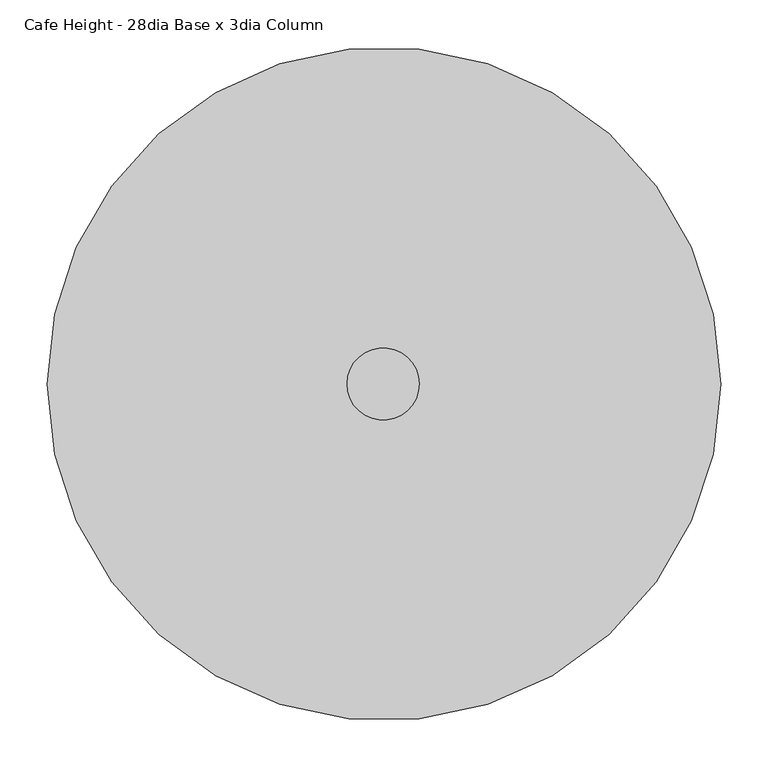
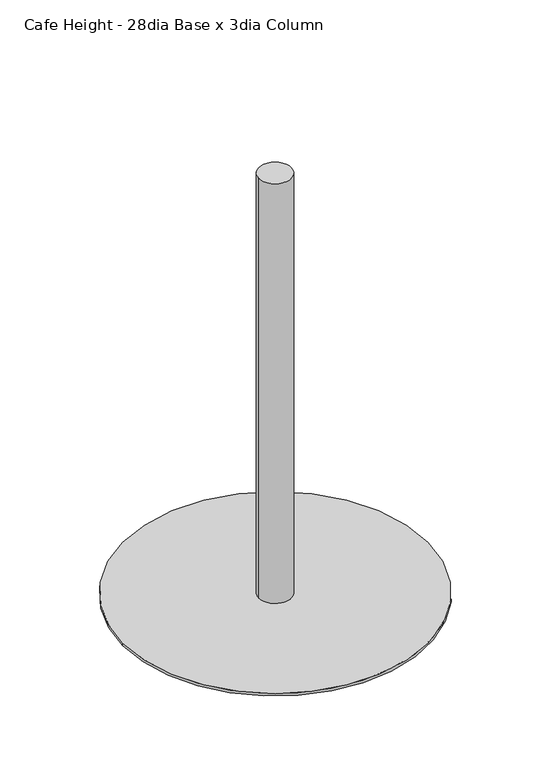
"""IFC4 building model written with IfcOpenShell, lengths in millimetres: furniture geometry, Steelcase - Groupwork - Table - Base : Cafe Height - 28dia Base x 3dia Column."""

from ifc_helpers import new_model, si_unit, point, frame, frame_2d, origin, origin_with_axes, origin_2d, place, context, project, spatial, circle_curve, trimmed, segment, composite_curve, outline, extrude, source, transform, mapped, element, save


def cafe_height_28dia_base_x_3dia_column_d5198972(model_context):
    return source(origin(), model_context, "Body", "SweptSolid", [
        extrude(outline(composite_curve([segment(trimmed(circle_curve(frame_2d((-0.79375, 0.0)), 38.1), [point((-38.89375, 0.0))], [point((37.30625, 0.0))], False, "CARTESIAN"), True, "CONTINUOUS"), segment(trimmed(circle_curve(frame_2d((-0.79375, 0.0)), 38.1), [point((37.30625, 0.0))], [point((-38.89375, 0.0))], False, "CARTESIAN"), True, "CONTINUOUS")], self_intersect=False)), frame((0.0, 0.0, 6.35), z_axis=(0.0, 0.0, 1.0), x_axis=(1.0, 0.0, 0.0)), (0.0, 0.0, 1.0), 1035.05),
        extrude(outline(composite_curve([segment(trimmed(circle_curve(origin_2d(), 355.6), [point((-355.6, 0.0))], [point((355.6, 0.0))], False, "CARTESIAN"), True, "CONTINUOUS"), segment(trimmed(circle_curve(origin_2d(), 355.6), [point((355.6, 0.0))], [point((-355.6, 0.0))], False, "CARTESIAN"), True, "CONTINUOUS")], self_intersect=False)), origin_with_axes(), (0.0, 0.0, 1.0), 6.35),
    ])


if __name__ == "__main__":
    model = new_model("IFC4")
    model_context = context("Model", 3, world=origin())
    ifc_project = project(units=[si_unit("LENGTHUNIT", "METRE", prefix="MILLI")], contexts=[model_context])
    site = spatial("IfcSite", under=ifc_project)
    building = spatial("IfcBuilding", under=site)
    placement = place(None, origin())
    cafe_height_28dia_base_x_3dia_column_shape = cafe_height_28dia_base_x_3dia_column_d5198972(model_context)
    element("IfcFurniture", 1, ObjectType="Steelcase - Groupwork - Table - Base : Cafe Height - 28dia Base x 3dia Column", at=placement, inside=building, context=model_context, shape_type="MappedRepresentation", body=[
        mapped(cafe_height_28dia_base_x_3dia_column_shape, transform((0.0, 0.0, 0.0), x_axis=(1.0, 0.0, 0.0), y_axis=(0.0, 1.0, 0.0), z_axis=(0.0, 0.0, 1.0))),
    ])
    save(model, "model.ifc")
